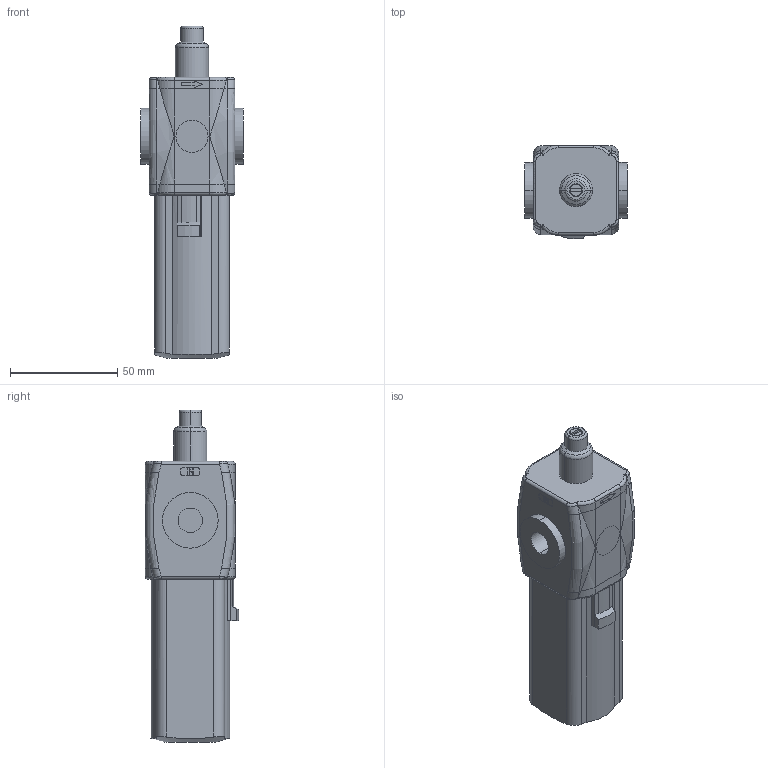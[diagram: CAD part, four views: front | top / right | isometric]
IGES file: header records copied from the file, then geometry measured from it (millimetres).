
Global section: file name: No Iges File Name specified; native system: Autodesk Inventor 2010; preprocessor: AutoDesk Inventor Iges Exporter R2010; author: valotma1; date: 20100823.141741; units: millimetre
Bounding box: 48 x 43.6 x 155 mm (x, y, z)
Volume: 183325.8 mm3; surface area: 23864.9 mm2
Topology: 2 solids, 2 shells, 228 faces, 556 edges, 350 vertices
Faces by surface type: plane 85, bspline 59, cylinder 47, torus 24, revolution 9, cone 4
